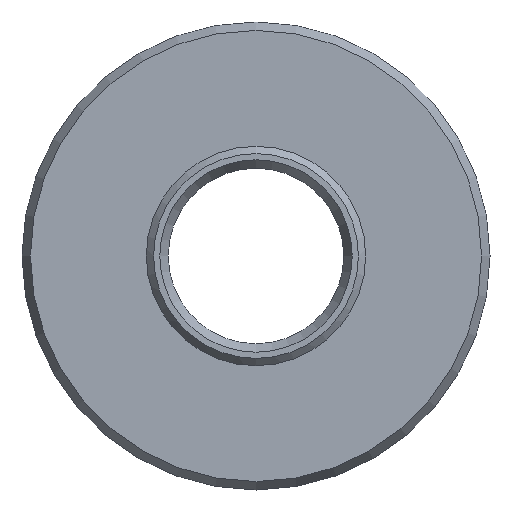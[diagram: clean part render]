
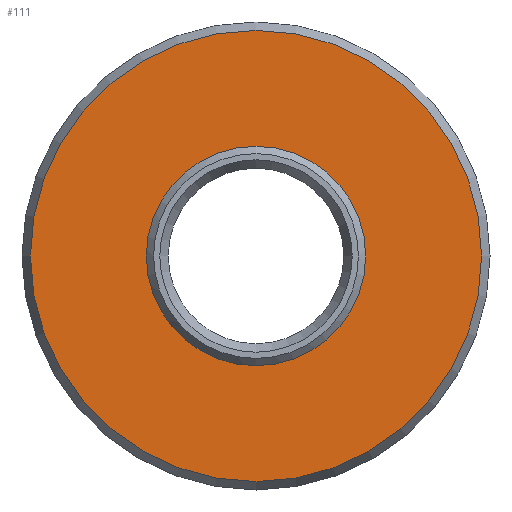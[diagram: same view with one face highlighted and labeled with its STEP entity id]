
A CAD part, left-side view. The second image highlights one B-rep face of the part: STEP entity #111.
In plain terms, the highlighted planar face has unit normal (-1, 0, 0).
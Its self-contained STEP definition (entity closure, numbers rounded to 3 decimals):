
#97=PLANE('',#323);
#111=ADVANCED_FACE('',(#144,#145),#97,.T.);
#144=FACE_BOUND('',#175,.T.);
#145=FACE_BOUND('',#176,.T.);
#175=EDGE_LOOP('',(#214));
#176=EDGE_LOOP('',(#215));
#214=ORIENTED_EDGE('',*,*,#279,.T.);
#215=ORIENTED_EDGE('',*,*,#280,.T.);
#258=VERTEX_POINT('',#461);
#259=VERTEX_POINT('',#463);
#279=EDGE_CURVE('',#258,#258,#298,.T.);
#280=EDGE_CURVE('',#259,#259,#299,.T.);
#298=CIRCLE('',#321,15.423);
#299=CIRCLE('',#322,7.5);
#321=AXIS2_PLACEMENT_3D('',#460,#369,#370);
#322=AXIS2_PLACEMENT_3D('',#462,#371,#372);
#323=AXIS2_PLACEMENT_3D('',#464,#373,#374);
#369=DIRECTION('',(-1.,0.,0.));
#370=DIRECTION('',(0.,0.,1.));
#371=DIRECTION('',(1.,0.,0.));
#372=DIRECTION('',(0.,0.,-1.));
#373=DIRECTION('',(-1.,0.,0.));
#374=DIRECTION('',(0.,0.,1.));
#460=CARTESIAN_POINT('',(0.,0.,0.));
#461=CARTESIAN_POINT('',(0.,0.,15.423));
#462=CARTESIAN_POINT('',(0.,0.,0.));
#463=CARTESIAN_POINT('',(0.,0.,-7.5));
#464=CARTESIAN_POINT('',(0.,16.,0.));
